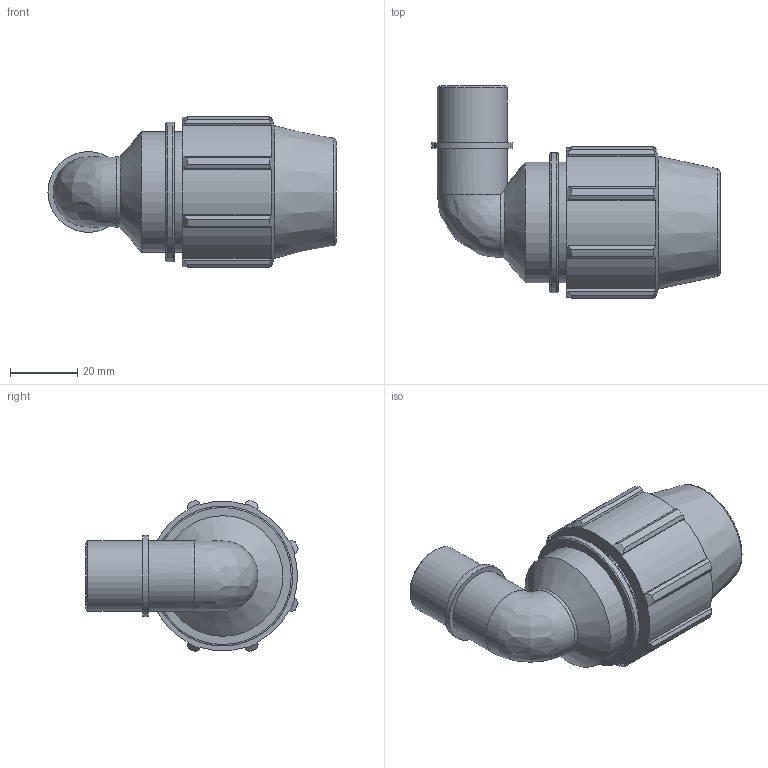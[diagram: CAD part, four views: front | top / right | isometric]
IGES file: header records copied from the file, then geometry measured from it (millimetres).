
Global section: file name: 0785M0005005.ipt; native system: Autodesk Inventor 2019; preprocessor: unknown; author: KIM; date: 20210826.124930; units: inch
Bounding box: 85.96 x 63.48 x 45.17 mm (x, y, z)
Volume: 66819.3 mm3; surface area: 20728.9 mm2
Topology: 1 solids, 1 shells, 86 faces, 237 edges, 158 vertices
Faces by surface type: plane 41, cylinder 23, cone 12, revolution 9, bspline 1
Full cylindrical faces by diameter (mm): 20.955 x2, 24.098 x1, 36.005 x2, 41.765 x1
